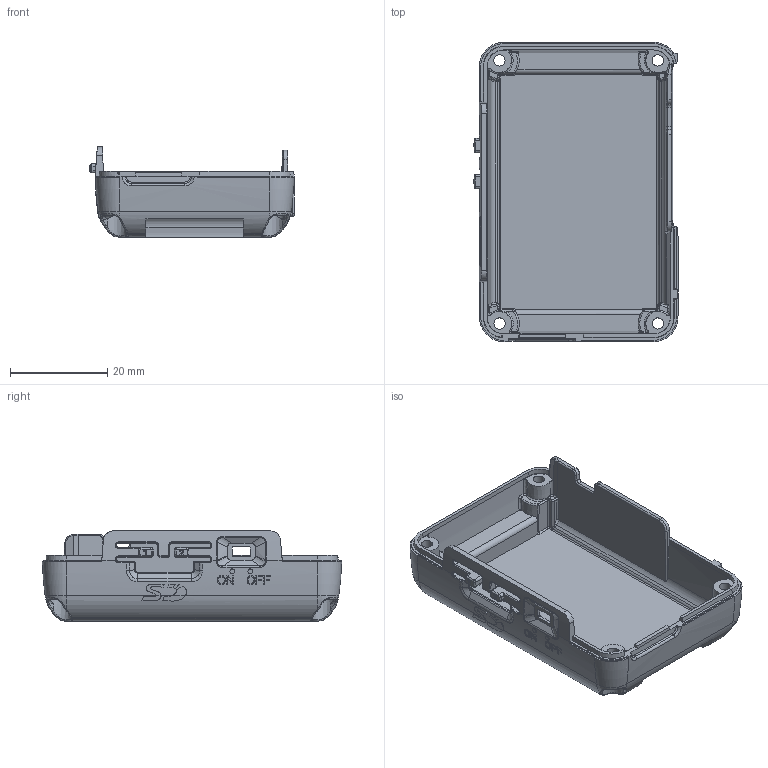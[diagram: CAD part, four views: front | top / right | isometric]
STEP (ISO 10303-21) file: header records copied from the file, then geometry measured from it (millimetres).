
FILE_DESCRIPTION (( 'STEP AP214' ), '1' );
FILE_NAME ('STBP_bracelet_bot.STEP', '2024-04-02T09:00:37', ( '' ), ( '' ), 'SwSTEP 2.0', 'SolidWorks 2022', '' );
FILE_SCHEMA (( 'AUTOMOTIVE_DESIGN' ));
Length unit declared in the file: metre
Products named in the file (2): STBP_bracelet_bot; BACKCOVERST2B_2
Assembly tree (1 placements, depth 2):
  STBP_bracelet_bot
    BACKCOVERST2B_2
Bounding box: 41.91 x 61.5 x 18.5 mm (x, y, z)
Volume: 7225.6 mm3; surface area: 10021.6 mm2
Topology: 1 solids, 1 shells, 843 faces, 2197 edges, 1364 vertices
Faces by surface type: bspline 358, plane 283, cylinder 162, cone 27, torus 13
Full cylindrical faces by diameter (mm): 1 x6, 2.3 x4, 4.4 x4
Entity records: 40513 total; most frequent: CARTESIAN_POINT 22821, ORIENTED_EDGE 4346, DIRECTION 2558, EDGE_CURVE 2173, VERTEX_POINT 1362, AXIS2_PLACEMENT_3D 899, EDGE_LOOP 885, FACE_OUTER_BOUND 857
